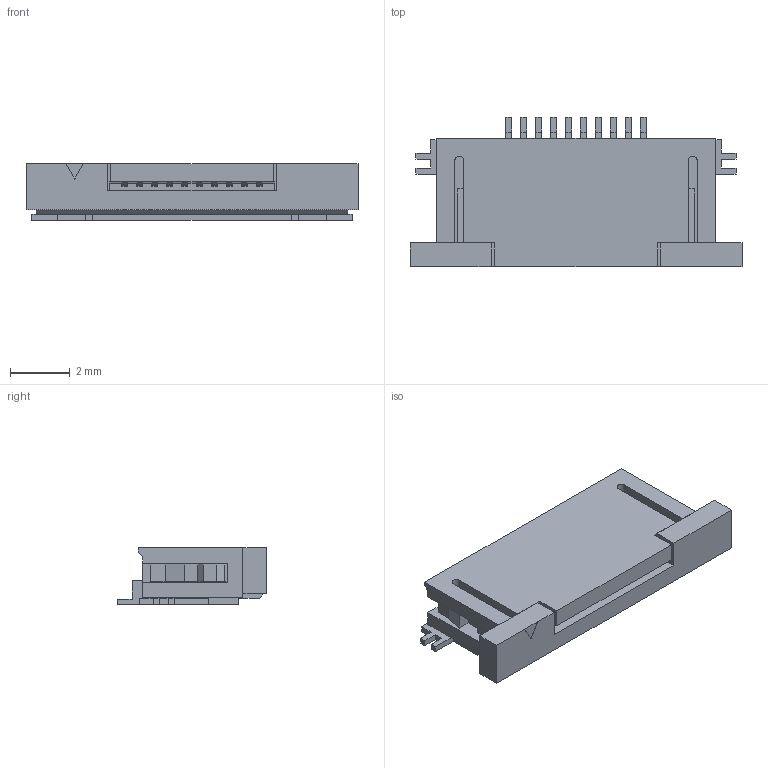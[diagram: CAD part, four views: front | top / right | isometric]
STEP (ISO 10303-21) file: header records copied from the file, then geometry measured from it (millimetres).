
FILE_DESCRIPTION(/* description */ (''),/* implementation_level */ '2;1');
FILE_NAME(/* name */ '527451097wbm000_01_214.stp',/* time_stamp */ '2022-11-28T12:12:17+06:00',/* author */ (''),/* organization */ (''),/* preprocessor_version */ 'ST-DEVELOPER v16.7',/* originating_system */ 'SIEMENS PLM Software NX 1919',/* authorisation */ '');
FILE_SCHEMA (('AUTOMOTIVE_DESIGN { 1 0 10303 214 3 1 1 1 }'));
Length unit declared in the file: millimetre
Products named in the file (1): 527451097wbm000_01
Bounding box: 11.1 x 5 x 1.91 mm (x, y, z)
Volume: 64.5 mm3; surface area: 260.1 mm2
Topology: 1 solids, 1 shells, 312 faces, 942 edges, 626 vertices
Faces by surface type: plane 288, cylinder 24
Entity records: 10446 total; most frequent: ORIENTED_EDGE 1884, CARTESIAN_POINT 1881, DIRECTION 1616, EDGE_CURVE 942, LINE 894, VECTOR 894, VERTEX_POINT 626, AXIS2_PLACEMENT_3D 361
